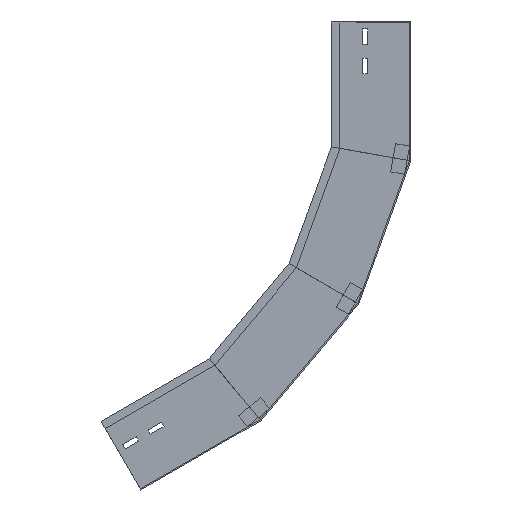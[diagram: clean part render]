
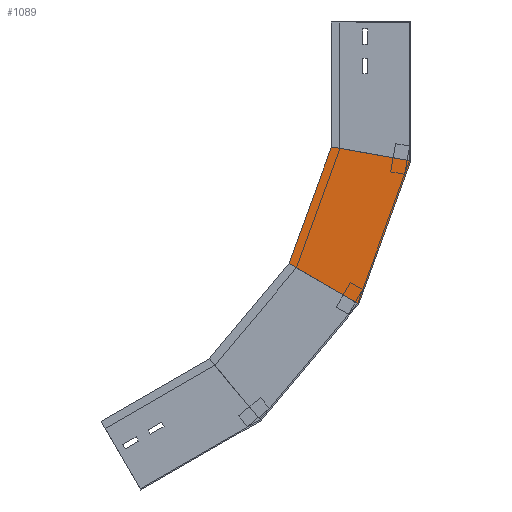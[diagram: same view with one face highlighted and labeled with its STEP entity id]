
A CAD part, left-side view. The second image highlights one B-rep face of the part: STEP entity #1089.
In plain terms, the highlighted planar face has unit normal (-1, 0, 0) as drawn and (1, 0, 0) by its records, which use the part's own axes.
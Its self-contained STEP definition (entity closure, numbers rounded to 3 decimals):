
#44 = EDGE_LOOP ( 'NONE', ( #321, #61, #1545, #780 ) ) ;
#61 = ORIENTED_EDGE ( 'NONE', *, *, #1300, .T. ) ;
#105 = VECTOR ( 'NONE', #656, 1000. ) ;
#164 = CARTESIAN_POINT ( 'NONE',  ( 0., 285.655, -476.677 ) ) ;
#218 = EDGE_CURVE ( 'NONE', #987, #705, #967, .T. ) ;
#253 = LINE ( 'NONE', #1189, #105 ) ;
#277 = LINE ( 'NONE', #1480, #1430 ) ;
#321 = ORIENTED_EDGE ( 'NONE', *, *, #775, .F. ) ;
#474 = DIRECTION ( 'NONE',  ( 0., 0.643, -0.766 ) ) ;
#505 = AXIS2_PLACEMENT_3D ( 'NONE', #762, #1644, #1516 ) ;
#585 = EDGE_CURVE ( 'NONE', #1601, #705, #832, .T. ) ;
#600 = FACE_OUTER_BOUND ( 'NONE', #44, .T. ) ;
#656 = DIRECTION ( 'NONE',  ( 0., 0.643, -0.766 ) ) ;
#705 = VERTEX_POINT ( 'NONE', #1149 ) ;
#762 = CARTESIAN_POINT ( 'NONE',  ( 0., 73.705, -399.104 ) ) ;
#775 = EDGE_CURVE ( 'NONE', #1207, #987, #253, .T. ) ;
#780 = ORIENTED_EDGE ( 'NONE', *, *, #218, .F. ) ;
#832 = LINE ( 'NONE', #1242, #1101 ) ;
#892 = PLANE ( 'NONE',  #505 ) ;
#957 = DIRECTION ( 'NONE',  ( 0., -0.643, -0.766 ) ) ;
#967 = LINE ( 'NONE', #1511, #1468 ) ;
#987 = VERTEX_POINT ( 'NONE', #164 ) ;
#1089 = ADVANCED_FACE ( 'NONE', ( #600 ), #892, .F. ) ;
#1101 = VECTOR ( 'NONE', #474, 1000. ) ;
#1149 = CARTESIAN_POINT ( 'NONE',  ( 0., 212.226, -564.186 ) ) ;
#1175 = CARTESIAN_POINT ( 'NONE',  ( 0., 73.705, -399.104 ) ) ;
#1189 = CARTESIAN_POINT ( 'NONE',  ( 0., 159.885, -326.79 ) ) ;
#1207 = VERTEX_POINT ( 'NONE', #1571 ) ;
#1242 = CARTESIAN_POINT ( 'NONE',  ( 0., 73.705, -399.104 ) ) ;
#1300 = EDGE_CURVE ( 'NONE', #1207, #1601, #277, .T. ) ;
#1430 = VECTOR ( 'NONE', #1588, 1000. ) ;
#1468 = VECTOR ( 'NONE', #957, 1000. ) ;
#1480 = CARTESIAN_POINT ( 'NONE',  ( 0., 106.113, -380.393 ) ) ;
#1511 = CARTESIAN_POINT ( 'NONE',  ( 0., 236.28, -535.52 ) ) ;
#1516 = DIRECTION ( 'NONE',  ( 0., 0., 1. ) ) ;
#1545 = ORIENTED_EDGE ( 'NONE', *, *, #585, .T. ) ;
#1571 = CARTESIAN_POINT ( 'NONE',  ( 0., 172.636, -341.986 ) ) ;
#1588 = DIRECTION ( 'NONE',  ( 0., -0.866, -0.5 ) ) ;
#1601 = VERTEX_POINT ( 'NONE', #1175 ) ;
#1644 = DIRECTION ( 'NONE',  ( -1., 0., 0. ) ) ;
